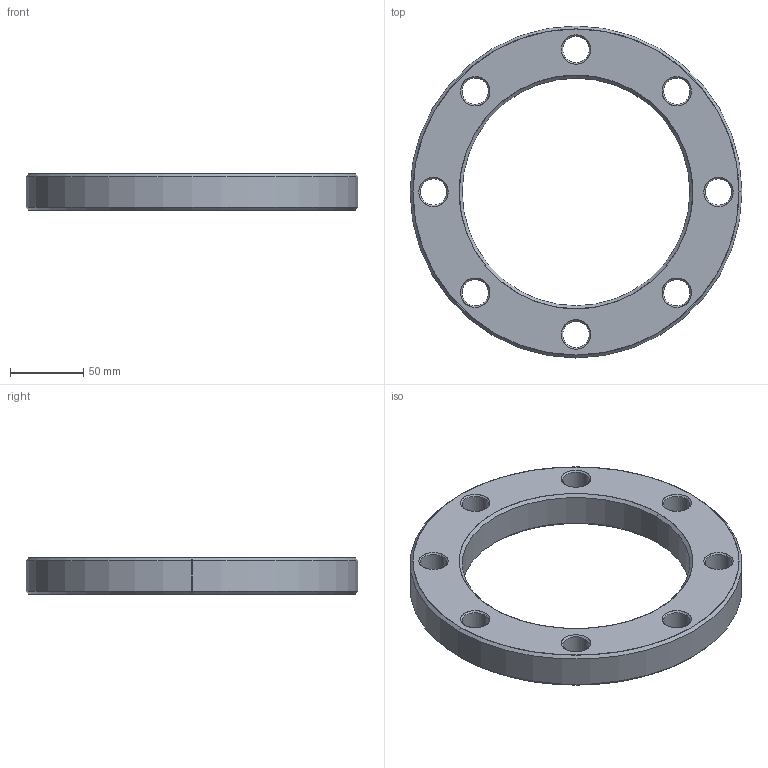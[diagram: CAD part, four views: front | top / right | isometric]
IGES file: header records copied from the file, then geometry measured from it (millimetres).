
Start section: SolidWorks IGES file using analytic representation for surfaces
Bounding box: 226 x 226 x 25 mm (x, y, z)
Surface area: 76339.7 mm2 (no closed solid volume)
Topology: 0 solids, 0 shells, 62 faces, 1008 edges, 1008 vertices
Faces by surface type: revolution 60, bspline 2
